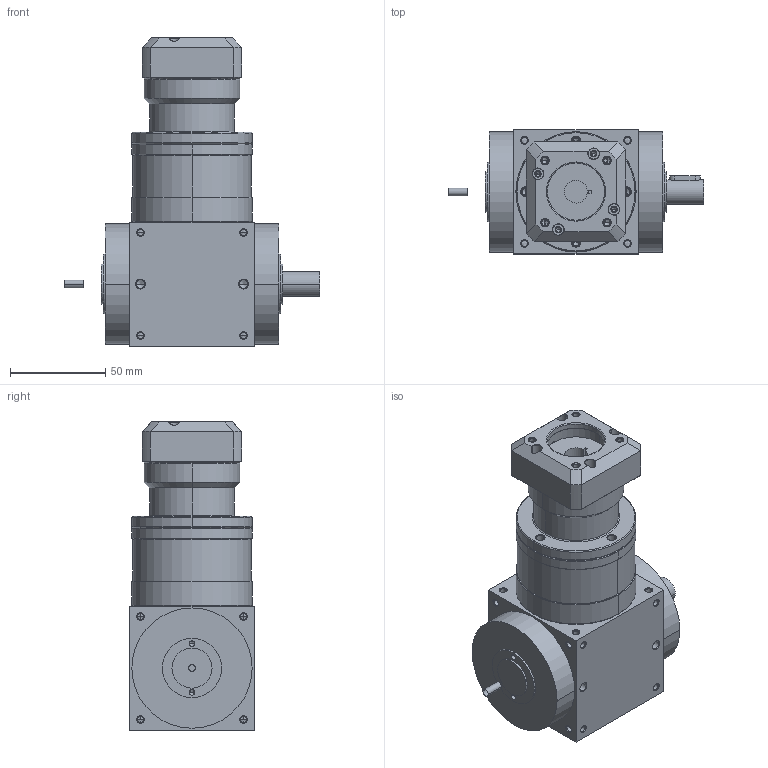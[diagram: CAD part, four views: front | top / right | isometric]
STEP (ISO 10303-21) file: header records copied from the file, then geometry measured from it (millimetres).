
FILE_DESCRIPTION((''),'2;1');
FILE_NAME('AT065FR12-P0405100202_ASM','2010-02-10T',('D00176'),(''),'PRO/ENGINEER BY PARAMETRIC TECHNOLOGY CORPORATION, 2008170','PRO/ENGINEER BY PARAMETRIC TECHNOLOGY CORPORATION, 2008170','');
FILE_SCHEMA(('CONFIG_CONTROL_DESIGN'));
Length unit declared in the file: millimetre
Products named in the file (5): ATFR1-HOUSING-2-2; P1801200001; P0226200001; P0405100202; AT065FR12-P0405100202_ASM
Assembly tree (4 placements, depth 2):
  AT065FR12-P0405100202_ASM
    ATFR1-HOUSING-2-2
    P1801200001
    P0226200001
    P0405100202
Bounding box: 134 x 65 x 161.5 mm (x, y, z)
Volume: 563424.7 mm3; surface area: 95425.9 mm2
Topology: 4 solids, 42 shells, 747 faces, 1829 edges, 1081 vertices
Faces by surface type: cylinder 334, cone 262, plane 103, torus 44, bspline 4
Entity records: 22280 total; most frequent: CARTESIAN_POINT 4654, DIRECTION 3979, ORIENTED_EDGE 3326, EDGE_CURVE 1739, AXIS2_PLACEMENT_3D 1666, VERTEX_POINT 1081, CIRCLE 906, EDGE_LOOP 892
